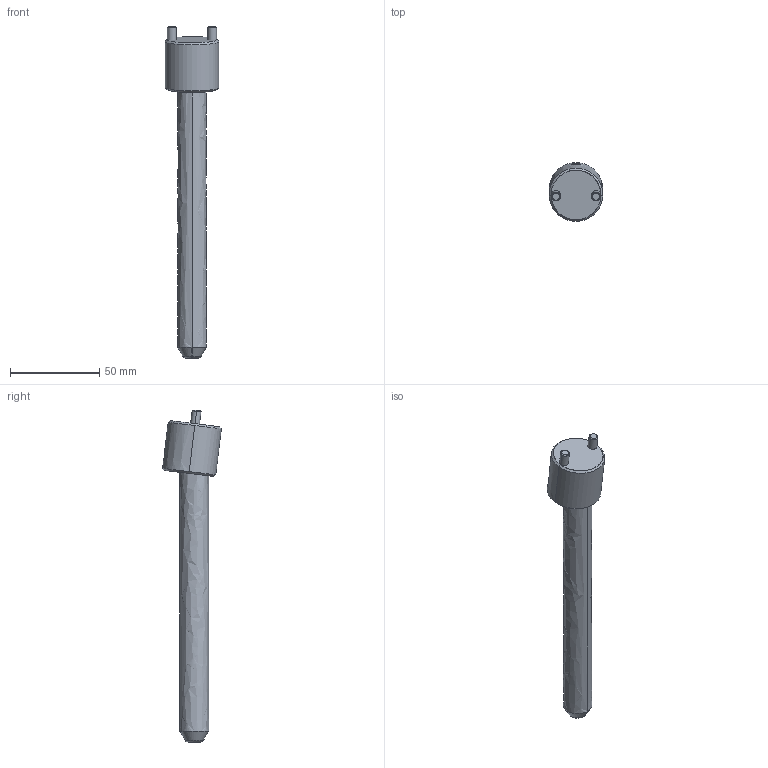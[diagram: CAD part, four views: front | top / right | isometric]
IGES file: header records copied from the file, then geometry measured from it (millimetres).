
Start section: START RECORD GO HERE.
Global section: file name: CI0716150.igs; native system: DASSAULT SYSTEMES CATIA V5 R20 - www.3ds.com; preprocessor: CATIA Version 5 Release 20 ; author: r.borello; organization: CFTORINO; date: 20190620.161327; units: millimetre
Bounding box: 30 x 32.95 x 185.84 mm (x, y, z)
Surface area: 14496.8 mm2 (no closed solid volume)
Topology: 0 solids, 0 shells, 39 faces, 162 edges, 160 vertices
Faces by surface type: revolution 32, plane 7
